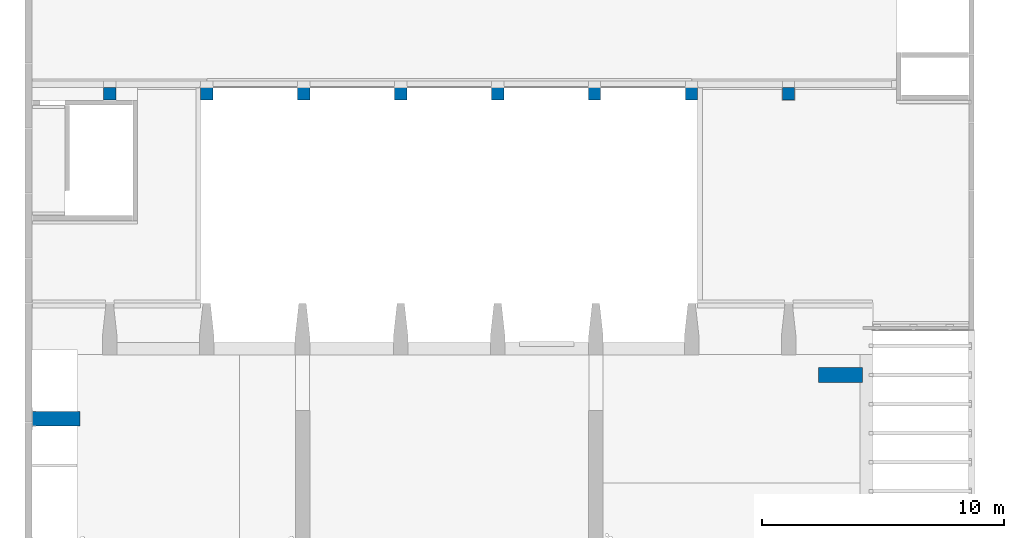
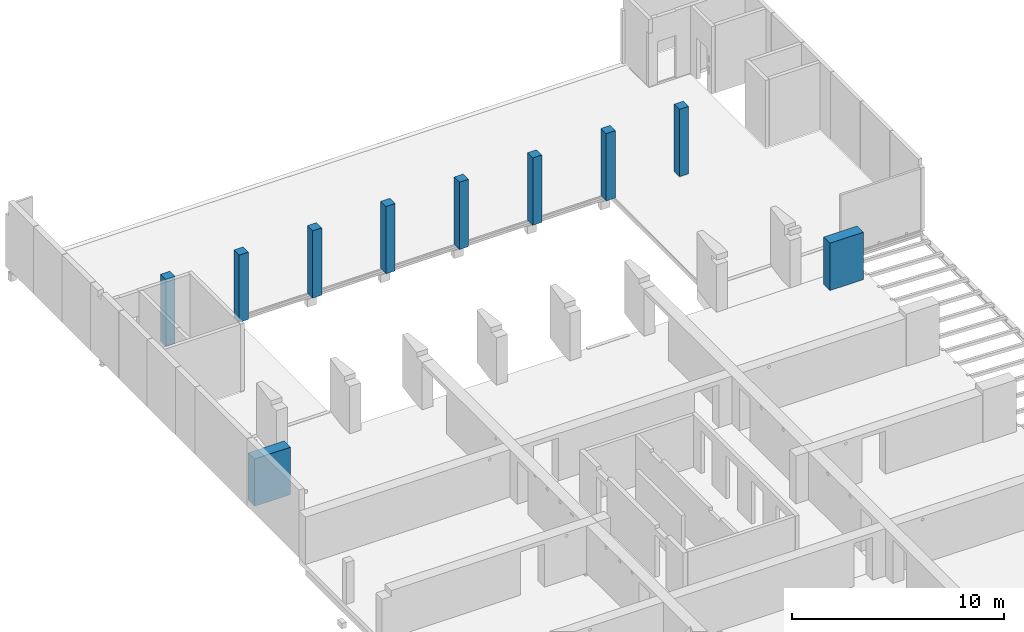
# One storey, part 2 of 27: 10 columns.
"""IFC2X3 building model written with IfcOpenShell, lengths in millimetres."""

from ifc_helpers import new_model, entity, si_unit, converted_unit, derived_unit, direction, frame, frame_2d, origin, origin_2d_with_axis, place, context, subcontext, project, spatial, rectangle, extrude, source, transform, mapped, material, type_object, type_shapes, element, save


model = new_model("IFC2X3")

# Units and contexts
model_context = context("Model", 3, precision=0.01, world=origin(), true_north=direction((6.12303176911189e-17, 1.0)))
body_context = subcontext(model_context, "Body", "Model", "MODEL_VIEW")
ifc_project = project(units=[si_unit("LENGTHUNIT", "METRE", prefix="MILLI"), si_unit("AREAUNIT", "SQUARE_METRE"), si_unit("VOLUMEUNIT", "CUBIC_METRE"), converted_unit("PLANEANGLEUNIT", "DEGREE", entity("IfcRatioMeasure", 0.0174532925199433), si_unit("PLANEANGLEUNIT", "RADIAN"), dimensions=[0, 0, 0, 0, 0, 0, 0]), si_unit("MASSUNIT", "GRAM", prefix="KILO"), derived_unit("MASSDENSITYUNIT", [(si_unit("MASSUNIT", "GRAM", prefix="KILO"), 1), (si_unit("LENGTHUNIT", "METRE"), -3)]), si_unit("TIMEUNIT", "SECOND"), si_unit("FREQUENCYUNIT", "HERTZ"), si_unit("THERMODYNAMICTEMPERATUREUNIT", "DEGREE_CELSIUS"), derived_unit("THERMALTRANSMITTANCEUNIT", [(si_unit("MASSUNIT", "GRAM", prefix="KILO"), 1), (si_unit("THERMODYNAMICTEMPERATUREUNIT", "KELVIN"), -1), (si_unit("TIMEUNIT", "SECOND"), -3)]), derived_unit("VOLUMETRICFLOWRATEUNIT", [(si_unit("LENGTHUNIT", "METRE"), 3), (si_unit("TIMEUNIT", "SECOND"), -1)]), si_unit("ELECTRICCURRENTUNIT", "AMPERE"), si_unit("ELECTRICVOLTAGEUNIT", "VOLT"), si_unit("POWERUNIT", "WATT"), si_unit("FORCEUNIT", "NEWTON", prefix="KILO"), si_unit("ILLUMINANCEUNIT", "LUX"), si_unit("LUMINOUSFLUXUNIT", "LUMEN"), si_unit("LUMINOUSINTENSITYUNIT", "CANDELA"), derived_unit("USERDEFINED", [(si_unit("MASSUNIT", "GRAM", prefix="KILO"), -1), (si_unit("LENGTHUNIT", "METRE"), -2), (si_unit("TIMEUNIT", "SECOND"), 3), (si_unit("LUMINOUSFLUXUNIT", "LUMEN"), 1)]), derived_unit("LINEARVELOCITYUNIT", [(si_unit("LENGTHUNIT", "METRE"), 1), (si_unit("TIMEUNIT", "SECOND"), -1)]), si_unit("PRESSUREUNIT", "PASCAL"), derived_unit("USERDEFINED", [(si_unit("LENGTHUNIT", "METRE"), -2), (si_unit("MASSUNIT", "GRAM", prefix="KILO"), 1), (si_unit("TIMEUNIT", "SECOND"), -2)])], contexts=[model_context])

# Site, building, storey
site_placement = place(None, origin())
site = spatial("IfcSite", under=ifc_project, at=site_placement, Name="Default", CompositionType="ELEMENT")
building_placement = place(site_placement, origin())
building = spatial("IfcBuilding", under=site, at=building_placement, Name="niet gebruiken", CompositionType="ELEMENT")
storey_placement = place(building_placement, frame((0.0, 0.0, 6000.0)))
storey = spatial("IfcBuildingStorey", under=building, at=storey_placement, Name="01 eerste verdieping", CompositionType="ELEMENT", Elevation=6000.0)

# Columns
ifc_material_1 = material(Name="NLRS_f2_beton ihwg")
column_type_1 = type_object("IfcColumnType", Name="600x1820", PredefinedType="COLUMN", material=ifc_material_1)
shared_shape_1 = source(origin(), body_context, "Body", "SweptSolid", [
    extrude(rectangle(XDim=599.999999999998, YDim=1820.0, at=frame_2d((-4.34852154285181e-12, 0.0), x_axis=(1.0, 0.0))), frame((157890.0, 31900.0, 5910.0), z_axis=(0.0, 0.0, 1.0), x_axis=(0.0, -1.0, 0.0)), (0.0, 0.0, 1.0), 2730.00000000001),
])
type_shapes(column_type_1, [shared_shape_1])
column_1_placement = place(storey_placement, frame((0.0, 0.0, -6000.0)))
element("IfcColumn", 1, at=column_1_placement, inside=storey, type_object=column_type_1, material=ifc_material_1, Name="NLRS_28.11_SCO_TLB_beton kolom ihwg_gen:600x1820", ObjectType="600x1820", context=body_context, shape_type="MappedRepresentation", body=[
    mapped(shared_shape_1, transform((0.0, 0.0, 0.0), scale=1.0)),
])
column_type_2 = type_object("IfcColumnType", Name="600x1950", PredefinedType="COLUMN", material=ifc_material_1)
shared_shape_2 = source(origin(), body_context, "Body", "SweptSolid", [
    extrude(rectangle(XDim=599.999999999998, YDim=1950.00000000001, at=origin_2d_with_axis()), frame((125545.0, 30100.0, 5910.0), z_axis=(0.0, 0.0, 1.0), x_axis=(0.0, -1.0, 0.0)), (0.0, 0.0, 1.0), 2730.00000000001),
])
type_shapes(column_type_2, [shared_shape_2])
column_2_placement = place(storey_placement, frame((0.0, 0.0, -6000.0)))
element("IfcColumn", 2, at=column_2_placement, inside=storey, type_object=column_type_2, material=ifc_material_1, Name="NLRS_28.11_SCO_TLB_beton kolom ihwg_gen:600x1950", ObjectType="600x1950", context=body_context, shape_type="MappedRepresentation", body=[
    mapped(shared_shape_2, transform((0.0, 0.0, 0.0), scale=1.0)),
])
ifc_material_2 = material(Name="NLRS_f2_beton prefab")
column_type_3 = type_object("IfcColumnType", Name="500x500", PredefinedType="COLUMN", material=ifc_material_2)
shared_shape_3 = source(origin(), body_context, "Body", "SweptSolid", [
    extrude(rectangle(XDim=499.999999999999, YDim=500.000000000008, at=frame_2d((0.0, 1.73230318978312e-11), x_axis=(1.0, 0.0))), frame((131750.0, 43500.0, 5930.0), z_axis=(0.0, 0.0, 1.0), x_axis=(0.0, -1.0, 0.0)), (0.0, 0.0, 1.0), 3880.0),
])
type_shapes(column_type_3, [shared_shape_3])
column_3_placement = place(storey_placement, frame((0.0, 0.0, -6000.0)))
element("IfcColumn", 3, at=column_3_placement, inside=storey, type_object=column_type_3, material=ifc_material_2, Name="NLRS_28. kolom vierkant_gen:500x500", ObjectType="500x500", context=body_context, shape_type="MappedRepresentation", body=[
    mapped(shared_shape_3, transform((0.0, 0.0, 0.0), scale=1.0)),
])
column_type_4 = type_object("IfcColumnType", Name="500x500", PredefinedType="COLUMN", material=ifc_material_2)
shared_shape_4 = source(origin(), body_context, "Body", "SweptSolid", [
    extrude(rectangle(XDim=499.999999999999, YDim=500.000000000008, at=origin_2d_with_axis()), frame((127750.0, 43500.0, 5930.0), z_axis=(0.0, 0.0, 1.0), x_axis=(0.0, -1.0, 0.0)), (0.0, 0.0, 1.0), 3880.0),
])
type_shapes(column_type_4, [shared_shape_4])
column_4_placement = place(storey_placement, frame((0.0, 0.0, -6000.0)))
element("IfcColumn", 4, at=column_4_placement, inside=storey, type_object=column_type_4, material=ifc_material_2, Name="NLRS_28. kolom vierkant_gen:500x500", ObjectType="500x500", context=body_context, shape_type="MappedRepresentation", body=[
    mapped(shared_shape_4, transform((0.0, 0.0, 0.0), scale=1.0)),
])
column_type_5 = type_object("IfcColumnType", Name="500x500", PredefinedType="COLUMN", material=ifc_material_2)
shared_shape_5 = source(origin(), body_context, "Body", "SweptSolid", [
    extrude(rectangle(XDim=499.999999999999, YDim=500.000000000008, at=origin_2d_with_axis()), frame((135750.0, 43500.0, 5930.0), z_axis=(0.0, 0.0, 1.0), x_axis=(0.0, -1.0, 0.0)), (0.0, 0.0, 1.0), 3880.0),
])
type_shapes(column_type_5, [shared_shape_5])
column_5_placement = place(storey_placement, frame((0.0, 0.0, -6000.0)))
element("IfcColumn", 5, at=column_5_placement, inside=storey, type_object=column_type_5, material=ifc_material_2, Name="NLRS_28. kolom vierkant_gen:500x500", ObjectType="500x500", context=body_context, shape_type="MappedRepresentation", body=[
    mapped(shared_shape_5, transform((0.0, 0.0, 0.0), scale=1.0)),
])
column_type_6 = type_object("IfcColumnType", Name="500x500", PredefinedType="COLUMN", material=ifc_material_2)
shared_shape_6 = source(origin(), body_context, "Body", "SweptSolid", [
    extrude(rectangle(XDim=499.999999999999, YDim=500.000000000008, at=origin_2d_with_axis()), frame((139750.0, 43500.0, 5930.0), z_axis=(0.0, 0.0, 1.0), x_axis=(0.0, -1.0, 0.0)), (0.0, 0.0, 1.0), 3880.0),
])
type_shapes(column_type_6, [shared_shape_6])
column_6_placement = place(storey_placement, frame((0.0, 0.0, -6000.0)))
element("IfcColumn", 6, at=column_6_placement, inside=storey, type_object=column_type_6, material=ifc_material_2, Name="NLRS_28. kolom vierkant_gen:500x500", ObjectType="500x500", context=body_context, shape_type="MappedRepresentation", body=[
    mapped(shared_shape_6, transform((0.0, 0.0, 0.0), scale=1.0)),
])
column_type_7 = type_object("IfcColumnType", Name="500x500", PredefinedType="COLUMN", material=ifc_material_2)
shared_shape_7 = source(origin(), body_context, "Body", "SweptSolid", [
    extrude(rectangle(XDim=499.999999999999, YDim=500.000000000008, at=origin_2d_with_axis()), frame((143750.0, 43500.0, 5930.0), z_axis=(0.0, 0.0, 1.0), x_axis=(0.0, -1.0, 0.0)), (0.0, 0.0, 1.0), 3880.0),
])
type_shapes(column_type_7, [shared_shape_7])
column_7_placement = place(storey_placement, frame((0.0, 0.0, -6000.0)))
element("IfcColumn", 7, at=column_7_placement, inside=storey, type_object=column_type_7, material=ifc_material_2, Name="NLRS_28. kolom vierkant_gen:500x500", ObjectType="500x500", context=body_context, shape_type="MappedRepresentation", body=[
    mapped(shared_shape_7, transform((0.0, 0.0, 0.0), scale=1.0)),
])
column_type_8 = type_object("IfcColumnType", Name="500x500", PredefinedType="COLUMN", material=ifc_material_2)
shared_shape_8 = source(origin(), body_context, "Body", "SweptSolid", [
    extrude(rectangle(XDim=499.999999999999, YDim=500.000000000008, at=origin_2d_with_axis()), frame((147750.0, 43500.0, 5930.0), z_axis=(0.0, 0.0, 1.0), x_axis=(0.0, -1.0, 0.0)), (0.0, 0.0, 1.0), 3880.0),
])
type_shapes(column_type_8, [shared_shape_8])
column_8_placement = place(storey_placement, frame((0.0, 0.0, -6000.0)))
element("IfcColumn", 8, at=column_8_placement, inside=storey, type_object=column_type_8, material=ifc_material_2, Name="NLRS_28. kolom vierkant_gen:500x500", ObjectType="500x500", context=body_context, shape_type="MappedRepresentation", body=[
    mapped(shared_shape_8, transform((0.0, 0.0, 0.0), scale=1.0)),
])
column_type_9 = type_object("IfcColumnType", Name="500x500", PredefinedType="COLUMN", material=ifc_material_2)
shared_shape_9 = source(origin(), body_context, "Body", "SweptSolid", [
    extrude(rectangle(XDim=499.999999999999, YDim=500.000000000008, at=origin_2d_with_axis()), frame((151750.0, 43500.0, 5930.0), z_axis=(0.0, 0.0, 1.0), x_axis=(0.0, -1.0, 0.0)), (0.0, 0.0, 1.0), 3880.0),
])
type_shapes(column_type_9, [shared_shape_9])
column_9_placement = place(storey_placement, frame((0.0, 0.0, -6000.0)))
element("IfcColumn", 9, at=column_9_placement, inside=storey, type_object=column_type_9, material=ifc_material_2, Name="NLRS_28. kolom vierkant_gen:500x500", ObjectType="500x500", context=body_context, shape_type="MappedRepresentation", body=[
    mapped(shared_shape_9, transform((0.0, 0.0, 0.0), scale=1.0)),
])
column_type_10 = type_object("IfcColumnType", Name="500x500", PredefinedType="COLUMN", material=ifc_material_2)
shared_shape_10 = source(origin(), body_context, "Body", "SweptSolid", [
    extrude(rectangle(XDim=499.999999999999, YDim=500.000000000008, at=frame_2d((0.0, -1.73230318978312e-11), x_axis=(1.0, 0.0))), frame((155750.0, 43500.0, 5930.0), z_axis=(0.0, 0.0, 1.0), x_axis=(0.0, -1.0, 0.0)), (0.0, 0.0, 1.0), 3880.0),
])
type_shapes(column_type_10, [shared_shape_10])
column_10_placement = place(storey_placement, frame((0.0, 0.0, -6000.0)))
element("IfcColumn", 10, at=column_10_placement, inside=storey, type_object=column_type_10, material=ifc_material_2, Name="NLRS_28. kolom vierkant_gen:500x500", ObjectType="500x500", context=body_context, shape_type="MappedRepresentation", body=[
    mapped(shared_shape_10, transform((0.0, 0.0, 0.0), scale=1.0)),
])

save(model, "model.ifc")
